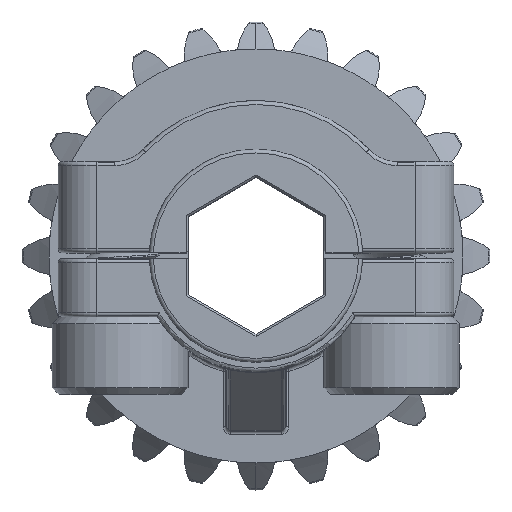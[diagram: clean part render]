
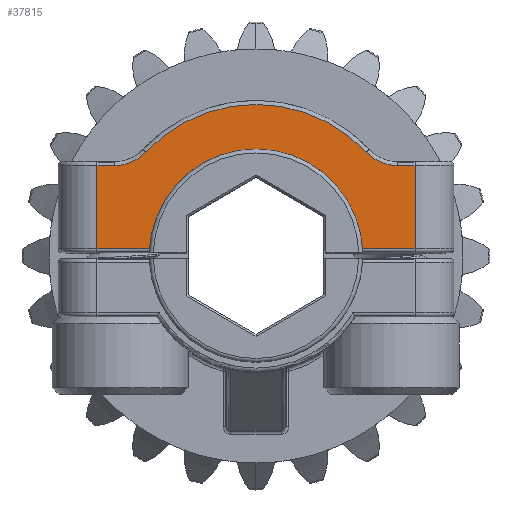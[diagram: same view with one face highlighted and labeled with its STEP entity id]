
A CAD part, top view. The second image highlights one B-rep face of the part: STEP entity #37815.
In plain terms, the highlighted planar face has unit normal (0, 0, 1) as drawn and (-1, 0, 0) by its records, which use the part's own axes.
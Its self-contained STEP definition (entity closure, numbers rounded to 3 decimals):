
#439 = CARTESIAN_POINT ( 'NONE',  ( -7., 0.15, -8.2 ) ) ;
#449 = VERTEX_POINT ( 'NONE', #35314 ) ;
#1407 = EDGE_CURVE ( 'NONE', #449, #26130, #38722, .T. ) ;
#2309 = DIRECTION ( 'NONE',  ( -1., 0., 0. ) ) ;
#2766 = DIRECTION ( 'NONE',  ( 1., 0., 0. ) ) ;
#3948 = AXIS2_PLACEMENT_3D ( 'NONE', #32350, #14401, #35801 ) ;
#4591 = CARTESIAN_POINT ( 'NONE',  ( -7., 0.35, -8.2 ) ) ;
#4843 = ORIENTED_EDGE ( 'NONE', *, *, #7633, .F. ) ;
#5005 = CARTESIAN_POINT ( 'NONE',  ( -7., 4.65, -7.875 ) ) ;
#5320 = DIRECTION ( 'NONE',  ( 0., 0., -1. ) ) ;
#5485 = DIRECTION ( 'NONE',  ( 1., 0., 0. ) ) ;
#6106 = ORIENTED_EDGE ( 'NONE', *, *, #39643, .F. ) ;
#7086 = ORIENTED_EDGE ( 'NONE', *, *, #39457, .F. ) ;
#7176 = VECTOR ( 'NONE', #15467, 1000. ) ;
#7633 = EDGE_CURVE ( 'NONE', #26674, #20791, #27304, .T. ) ;
#7689 = AXIS2_PLACEMENT_3D ( 'NONE', #33840, #2766, #15528 ) ;
#7749 = CIRCLE ( 'NONE', #33394, 2.2 ) ;
#9404 = CARTESIAN_POINT ( 'NONE',  ( -7., 0.35, -4.375 ) ) ;
#9671 = VERTEX_POINT ( 'NONE', #14354 ) ;
#10068 = CARTESIAN_POINT ( 'NONE',  ( -7., 4.65, -8.2 ) ) ;
#10960 = DIRECTION ( 'NONE',  ( -1., 0., 0. ) ) ;
#11406 = LINE ( 'NONE', #30590, #11930 ) ;
#11729 = ORIENTED_EDGE ( 'NONE', *, *, #38425, .F. ) ;
#11747 = DIRECTION ( 'NONE',  ( 0., -0.918, -0.397 ) ) ;
#11930 = VECTOR ( 'NONE', #12515, 1000. ) ;
#12195 = PLANE ( 'NONE',  #7689 ) ;
#12515 = DIRECTION ( 'NONE',  ( 0., 0., 1. ) ) ;
#12676 = ORIENTED_EDGE ( 'NONE', *, *, #38373, .F. ) ;
#12694 = DIRECTION ( 'NONE',  ( 0., -1., 0. ) ) ;
#13613 = AXIS2_PLACEMENT_3D ( 'NONE', #26481, #10960, #39017 ) ;
#13733 = CARTESIAN_POINT ( 'NONE',  ( -7., 4.65, -7.285 ) ) ;
#14354 = CARTESIAN_POINT ( 'NONE',  ( -7., 4.65, 8.2 ) ) ;
#14379 = VECTOR ( 'NONE', #12694, 1000. ) ;
#14401 = DIRECTION ( 'NONE',  ( 1., 0., 0. ) ) ;
#15458 = FACE_OUTER_BOUND ( 'NONE', #32981, .T. ) ;
#15467 = DIRECTION ( 'NONE',  ( 0., -1., 0. ) ) ;
#15528 = DIRECTION ( 'NONE',  ( 0., -1., 0. ) ) ;
#16398 = ORIENTED_EDGE ( 'NONE', *, *, #1407, .F. ) ;
#17101 = VERTEX_POINT ( 'NONE', #13733 ) ;
#18199 = CIRCLE ( 'NONE', #3948, 5.5 ) ;
#18856 = VERTEX_POINT ( 'NONE', #10068 ) ;
#19171 = LINE ( 'NONE', #21487, #7176 ) ;
#19188 = LINE ( 'NONE', #9404, #22526 ) ;
#19742 = LINE ( 'NONE', #5005, #30292 ) ;
#20251 = CARTESIAN_POINT ( 'NONE',  ( -7., 5.343, -5.683 ) ) ;
#20699 = CARTESIAN_POINT ( 'NONE',  ( -7., 6.85, 7.285 ) ) ;
#20791 = VERTEX_POINT ( 'NONE', #30355 ) ;
#21117 = ORIENTED_EDGE ( 'NONE', *, *, #25415, .F. ) ;
#21487 = CARTESIAN_POINT ( 'NONE',  ( -7., 0.15, 8.2 ) ) ;
#21728 = EDGE_CURVE ( 'NONE', #18856, #26130, #24463, .T. ) ;
#22461 = EDGE_CURVE ( 'NONE', #9671, #39568, #19171, .T. ) ;
#22526 = VECTOR ( 'NONE', #25061, 1000. ) ;
#22569 = AXIS2_PLACEMENT_3D ( 'NONE', #35861, #5485, #33069 ) ;
#22826 = EDGE_CURVE ( 'NONE', #449, #35724, #18199, .T. ) ;
#23509 = DIRECTION ( 'NONE',  ( 0., 0., 1. ) ) ;
#23567 = ORIENTED_EDGE ( 'NONE', *, *, #21728, .T. ) ;
#24463 = LINE ( 'NONE', #439, #14379 ) ;
#24485 = CIRCLE ( 'NONE', #13613, 2.2 ) ;
#25061 = DIRECTION ( 'NONE',  ( 0., 0., -1. ) ) ;
#25415 = EDGE_CURVE ( 'NONE', #18856, #17101, #11406, .T. ) ;
#26130 = VERTEX_POINT ( 'NONE', #4591 ) ;
#26481 = CARTESIAN_POINT ( 'NONE',  ( -7., 6.85, -7.285 ) ) ;
#26674 = VERTEX_POINT ( 'NONE', #20251 ) ;
#27304 = CIRCLE ( 'NONE', #22569, 7.8 ) ;
#28381 = VERTEX_POINT ( 'NONE', #37358 ) ;
#30292 = VECTOR ( 'NONE', #23509, 1000. ) ;
#30355 = CARTESIAN_POINT ( 'NONE',  ( -7., 5.343, 5.683 ) ) ;
#30590 = CARTESIAN_POINT ( 'NONE',  ( -7., 4.65, -7.875 ) ) ;
#30629 = VECTOR ( 'NONE', #5320, 1000. ) ;
#32350 = CARTESIAN_POINT ( 'NONE',  ( -7., 0., 0. ) ) ;
#32981 = EDGE_LOOP ( 'NONE', ( #12676, #11729, #4843, #6106, #21117, #23567, #16398, #33227, #7086, #39150 ) ) ;
#33069 = DIRECTION ( 'NONE',  ( 0., 1., 0. ) ) ;
#33227 = ORIENTED_EDGE ( 'NONE', *, *, #22826, .T. ) ;
#33394 = AXIS2_PLACEMENT_3D ( 'NONE', #20699, #2309, #11747 ) ;
#33840 = CARTESIAN_POINT ( 'NONE',  ( -7., 4.075, -5.25 ) ) ;
#34770 = CARTESIAN_POINT ( 'NONE',  ( -7., 0.35, 8.2 ) ) ;
#35314 = CARTESIAN_POINT ( 'NONE',  ( -7., 0.35, -5.489 ) ) ;
#35724 = VERTEX_POINT ( 'NONE', #39171 ) ;
#35801 = DIRECTION ( 'NONE',  ( 0., 0.027, 1. ) ) ;
#35861 = CARTESIAN_POINT ( 'NONE',  ( -7., 0., 0. ) ) ;
#36253 = CARTESIAN_POINT ( 'NONE',  ( -7., 0.35, -4.375 ) ) ;
#37358 = CARTESIAN_POINT ( 'NONE',  ( -7., 4.65, 7.285 ) ) ;
#37815 = ADVANCED_FACE ( 'NONE', ( #15458 ), #12195, .F. ) ;
#38373 = EDGE_CURVE ( 'NONE', #28381, #9671, #19742, .T. ) ;
#38425 = EDGE_CURVE ( 'NONE', #20791, #28381, #7749, .T. ) ;
#38722 = LINE ( 'NONE', #36253, #30629 ) ;
#39017 = DIRECTION ( 'NONE',  ( 0., -0.918, 0.397 ) ) ;
#39150 = ORIENTED_EDGE ( 'NONE', *, *, #22461, .F. ) ;
#39171 = CARTESIAN_POINT ( 'NONE',  ( -7., 0.35, 5.489 ) ) ;
#39457 = EDGE_CURVE ( 'NONE', #39568, #35724, #19188, .T. ) ;
#39568 = VERTEX_POINT ( 'NONE', #34770 ) ;
#39643 = EDGE_CURVE ( 'NONE', #17101, #26674, #24485, .T. ) ;
